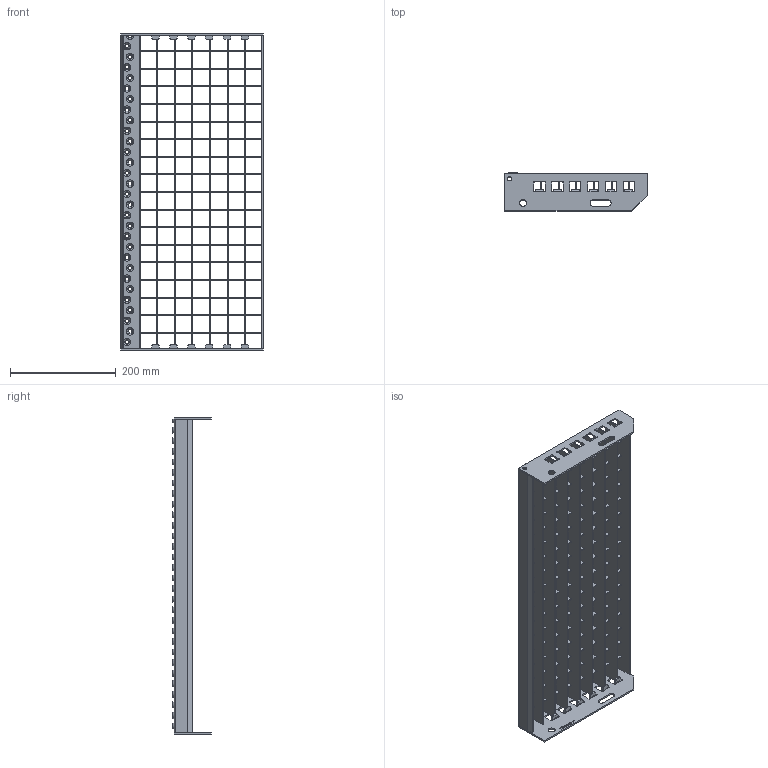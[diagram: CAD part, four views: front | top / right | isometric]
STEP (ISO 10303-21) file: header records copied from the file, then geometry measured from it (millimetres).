
FILE_DESCRIPTION(/* description */ ('','CAx-IF Rec.Pracs.---Representation and Presentation of Product Manufacturing Information (PMI)---3.8---2014-02-18'),/* implementation_level */ '2;1');
FILE_NAME(/* name */ 'C:\Users\phaverkotte\Desktop\Lager STEP\P-Stufen\P 230-33-2\P 230-33-2 600mm x 270mm.stp',/* time_stamp */ '2018-03-24T09:51:52+01:00',/* author */ ('phaverkotte'),/* organization */ (''),/* preprocessor_version */ 'ST-DEVELOPER v16.13',/* originating_system */ 'Autodesk Inventor 2018',/* authorisation */ '');
FILE_SCHEMA (('AP242_MANAGED_MODEL_BASED_3D_ENGINEERING_MIM_LF { 1 0 10303 442 1 1 4 }'));
Length unit declared in the file: millimetre
Products named in the file (8): Schodišťový stupeň přím
ý lisovaný; Seitenplatte ausgeklinkt links; Seitenplatte 240 ausgeklinkt extern rechts; Schod nášlap; P Rošt schodu; Querstab; P Nosný pás; Hinteres Flach
Assembly tree (29 placements, depth 3):
  Schodišťový stupeň přím
ý lisovaný
    Seitenplatte ausgeklinkt links
    Seitenplatte 240 ausgeklinkt extern rechts
    Schod nášlap
    P Rošt schodu
      Querstab  x17
      P Nosný pás  x7
      Hinteres Flach
Bounding box: 270.31 x 72.75 x 600 mm (x, y, z)
Volume: 542809.6 mm3; surface area: 548751.4 mm2
Topology: 28 solids, 28 shells, 1212 faces, 3317 edges, 2178 vertices
Faces by surface type: plane 936, cylinder 132, cone 90, torus 30, bspline 24
Full cylindrical faces by diameter (mm): 8 x2, 13 x2
Entity records: 24785 total; most frequent: CARTESIAN_POINT 7730, DIRECTION 3382, ORIENTED_EDGE 3300, EDGE_CURVE 1650, LINE 1180, VECTOR 1180, VERTEX_POINT 1127, AXIS2_PLACEMENT_3D 1101
